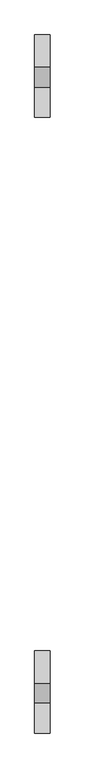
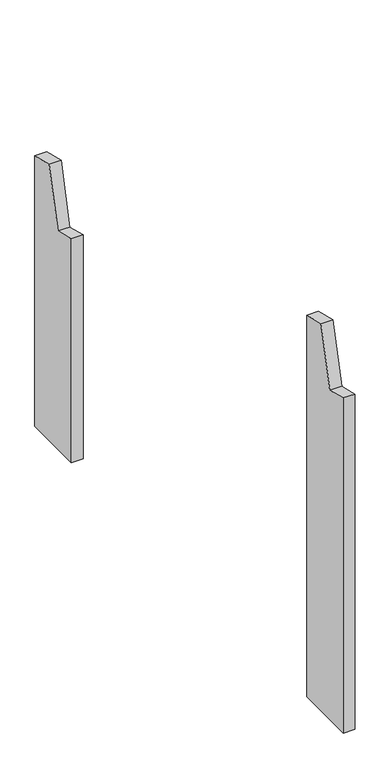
"""IFC4 building model written with IfcOpenShell, lengths in millimetres: proxy geometry, Modelos genéricos 69 : Modelos genéricos 5."""

from ifc_helpers import new_model, si_unit, frame, origin, place, context, project, spatial, polyline, outline, extrude, source, transform, mapped, element, save


def generic_models_dc6e7441(model_context):
    return source(origin(), model_context, "Body", "SweptSolid", [
        extrude(outline(polyline([(3268.6238165, 3000.0), (3268.6238165, 3898.0915281), (3326.8415601, 3883.5762143), (3365.5490634, 4038.8235305), (3428.6238165, 4023.0972283), (3428.6238165, 3000.0), (3268.6238165, 3000.0)])), frame((-1666.5527533, 0.0, 0.0), z_axis=(1.0, 0.0, 0.0), x_axis=(0.0, 1.0, 0.0)), (0.0, 0.0, 1.0), 30.0),
        extrude(outline(polyline([(4463.6238165, 3000.0), (4463.6238165, 3600.1445647), (4521.8415601, 3585.6292509), (4560.5490634, 3740.8765671), (4623.6238165, 3725.1502649), (4623.6238165, 3000.0), (4463.6238165, 3000.0)])), frame((-1666.5527533, 0.0, 0.0), z_axis=(1.0, 0.0, 0.0), x_axis=(0.0, 1.0, 0.0)), (0.0, 0.0, 1.0), 30.0),
    ])


if __name__ == "__main__":
    model = new_model("IFC4")
    model_context = context("Model", 3, world=origin())
    ifc_project = project(units=[si_unit("LENGTHUNIT", "METRE", prefix="MILLI")], contexts=[model_context])
    site = spatial("IfcSite", under=ifc_project)
    building = spatial("IfcBuilding", under=site)
    placement = place(None, origin())
    generic_models_shape = generic_models_dc6e7441(model_context)
    element("IfcBuildingElementProxy", 1, Name="Modelos genéricos 69 : Modelos genéricos 5", ObjectType="Modelos genéricos 69 : Modelos genéricos 5", at=placement, inside=building, context=model_context, shape_type="MappedRepresentation", body=[
        mapped(generic_models_shape, transform((0.0, 0.0, 0.0), x_axis=(1.0, 0.0, 0.0), y_axis=(0.0, 1.0, 0.0), z_axis=(0.0, 0.0, 1.0))),
    ])
    save(model, "model.ifc")
